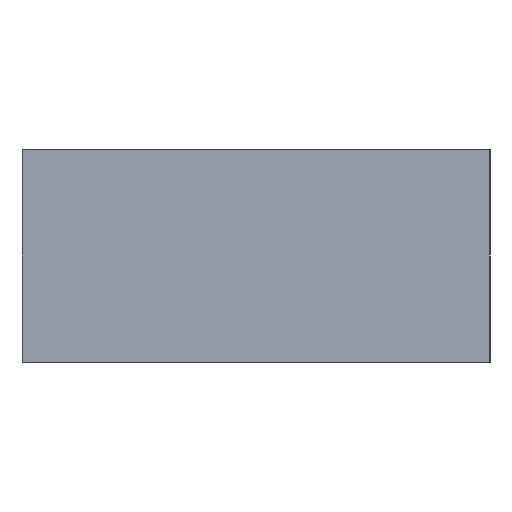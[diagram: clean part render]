
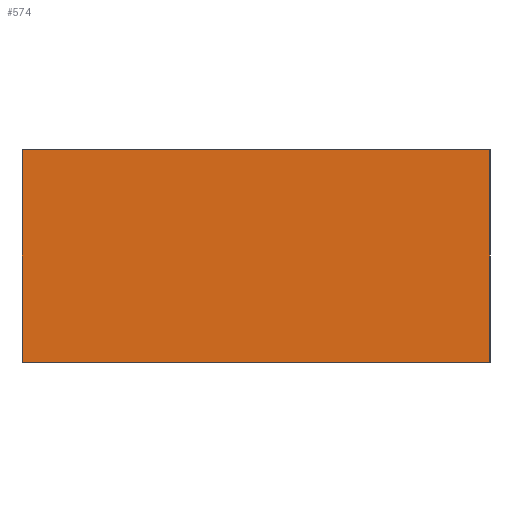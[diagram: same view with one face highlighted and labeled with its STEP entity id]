
A CAD part, left-side view. The second image highlights one B-rep face of the part: STEP entity #574.
In plain terms, the highlighted planar face has unit normal (-1, 0, 0).
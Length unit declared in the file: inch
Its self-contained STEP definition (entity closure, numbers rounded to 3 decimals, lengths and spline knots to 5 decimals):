
#3 = VERTEX_POINT ( 'NONE', #398 ) ;
#5 = AXIS2_PLACEMENT_3D ( 'NONE', #377, #215, #381 ) ;
#18 = LINE ( 'NONE', #233, #115 ) ;
#19 = ORIENTED_EDGE ( 'NONE', *, *, #411, .T. ) ;
#44 = DIRECTION ( 'NONE',  ( 0., 0., -1. ) ) ;
#88 = EDGE_CURVE ( 'NONE', #3, #114, #477, .T. ) ;
#114 = VERTEX_POINT ( 'NONE', #195 ) ;
#115 = VECTOR ( 'NONE', #661, 39.37008 ) ;
#131 = CARTESIAN_POINT ( 'NONE',  ( -4., 2.2, 0. ) ) ;
#147 = VECTOR ( 'NONE', #689, 39.37008 ) ;
#183 = EDGE_CURVE ( 'NONE', #114, #656, #430, .T. ) ;
#189 = CARTESIAN_POINT ( 'NONE',  ( -4., 0., 0. ) ) ;
#195 = CARTESIAN_POINT ( 'NONE',  ( -4., 0., 1. ) ) ;
#215 = DIRECTION ( 'NONE',  ( 1., 0., 0. ) ) ;
#226 = VERTEX_POINT ( 'NONE', #588 ) ;
#233 = CARTESIAN_POINT ( 'NONE',  ( -4., 2.2, 1. ) ) ;
#241 = VECTOR ( 'NONE', #670, 39.37008 ) ;
#291 = LINE ( 'NONE', #131, #241 ) ;
#316 = VECTOR ( 'NONE', #44, 39.37008 ) ;
#377 = CARTESIAN_POINT ( 'NONE',  ( -4., 2.2, 1. ) ) ;
#381 = DIRECTION ( 'NONE',  ( 0., 1., 0. ) ) ;
#398 = CARTESIAN_POINT ( 'NONE',  ( -4., 2.2, 1. ) ) ;
#411 = EDGE_CURVE ( 'NONE', #226, #656, #291, .T. ) ;
#430 = LINE ( 'NONE', #585, #316 ) ;
#433 = EDGE_CURVE ( 'NONE', #3, #226, #18, .T. ) ;
#446 = FACE_OUTER_BOUND ( 'NONE', #544, .T. ) ;
#477 = LINE ( 'NONE', #483, #147 ) ;
#478 = ORIENTED_EDGE ( 'NONE', *, *, #433, .T. ) ;
#483 = CARTESIAN_POINT ( 'NONE',  ( -4., 2.2, 1. ) ) ;
#502 = ORIENTED_EDGE ( 'NONE', *, *, #88, .F. ) ;
#544 = EDGE_LOOP ( 'NONE', ( #19, #645, #502, #478 ) ) ;
#574 = ADVANCED_FACE ( 'NONE', ( #446 ), #652, .F. ) ;
#585 = CARTESIAN_POINT ( 'NONE',  ( -4., 0., 1. ) ) ;
#588 = CARTESIAN_POINT ( 'NONE',  ( -4., 2.2, 0. ) ) ;
#645 = ORIENTED_EDGE ( 'NONE', *, *, #183, .F. ) ;
#652 = PLANE ( 'NONE',  #5 ) ;
#656 = VERTEX_POINT ( 'NONE', #189 ) ;
#661 = DIRECTION ( 'NONE',  ( 0., 0., -1. ) ) ;
#670 = DIRECTION ( 'NONE',  ( 0., -1., 0. ) ) ;
#689 = DIRECTION ( 'NONE',  ( 0., -1., 0. ) ) ;
